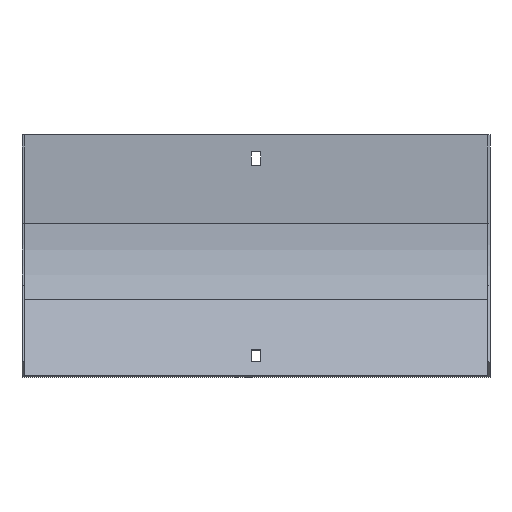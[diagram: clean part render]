
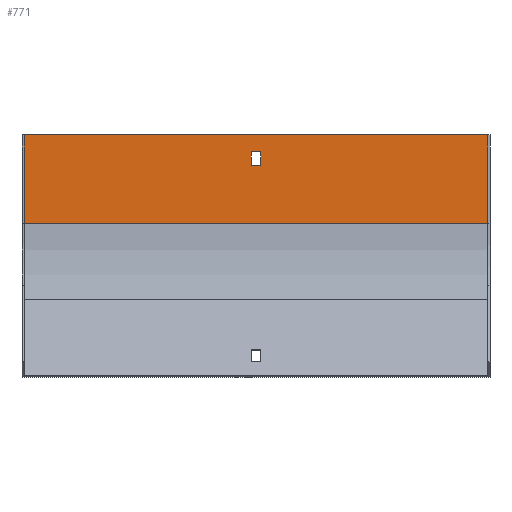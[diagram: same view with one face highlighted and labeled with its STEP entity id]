
A CAD part, front view. The second image highlights one B-rep face of the part: STEP entity #771.
In plain terms, the highlighted planar face has unit normal (0, -1, 0).
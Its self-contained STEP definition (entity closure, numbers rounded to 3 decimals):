
#20 = EDGE_LOOP ( 'NONE', ( #853, #646, #803, #283 ) ) ;
#21 = FACE_OUTER_BOUND ( 'NONE', #459, .T. ) ;
#30 = EDGE_CURVE ( 'NONE', #282, #644, #334, .T. ) ;
#36 = DIRECTION ( 'NONE',  ( 0., 0., -1. ) ) ;
#39 = ORIENTED_EDGE ( 'NONE', *, *, #250, .F. ) ;
#49 = DIRECTION ( 'NONE',  ( -1., 0., 0. ) ) ;
#79 = VECTOR ( 'NONE', #49, 1000. ) ;
#88 = DIRECTION ( 'NONE',  ( 1., 0., 0. ) ) ;
#113 = DIRECTION ( 'NONE',  ( 0., 0., 1. ) ) ;
#117 = CARTESIAN_POINT ( 'NONE',  ( 153.5, -1.5, -57.9 ) ) ;
#122 = LINE ( 'NONE', #837, #79 ) ;
#124 = VECTOR ( 'NONE', #36, 1000. ) ;
#146 = CARTESIAN_POINT ( 'NONE',  ( 152., -1.5, -57.9 ) ) ;
#166 = LINE ( 'NONE', #301, #124 ) ;
#185 = VERTEX_POINT ( 'NONE', #496 ) ;
#192 = CARTESIAN_POINT ( 'NONE',  ( 3.25, -1.5, -11. ) ) ;
#203 = DIRECTION ( 'NONE',  ( 0., 0., 1. ) ) ;
#211 = CARTESIAN_POINT ( 'NONE',  ( 153.5, -1.5, 0. ) ) ;
#214 = VERTEX_POINT ( 'NONE', #586 ) ;
#250 = EDGE_CURVE ( 'NONE', #800, #185, #640, .T. ) ;
#257 = EDGE_CURVE ( 'NONE', #644, #214, #122, .T. ) ;
#282 = VERTEX_POINT ( 'NONE', #376 ) ;
#283 = ORIENTED_EDGE ( 'NONE', *, *, #514, .F. ) ;
#284 = DIRECTION ( 'NONE',  ( 0., -1., 0. ) ) ;
#289 = DIRECTION ( 'NONE',  ( 0., 0., -1. ) ) ;
#292 = AXIS2_PLACEMENT_3D ( 'NONE', #211, #284, #289 ) ;
#301 = CARTESIAN_POINT ( 'NONE',  ( -3.25, -1.5, 0. ) ) ;
#334 = LINE ( 'NONE', #793, #768 ) ;
#344 = CARTESIAN_POINT ( 'NONE',  ( -3.25, -1.5, -20. ) ) ;
#353 = FACE_BOUND ( 'NONE', #20, .T. ) ;
#370 = CARTESIAN_POINT ( 'NONE',  ( 153.5, -1.5, 0. ) ) ;
#376 = CARTESIAN_POINT ( 'NONE',  ( 3.25, -1.5, -20. ) ) ;
#409 = VERTEX_POINT ( 'NONE', #344 ) ;
#413 = VECTOR ( 'NONE', #113, 1000. ) ;
#459 = EDGE_LOOP ( 'NONE', ( #822, #39, #630, #486 ) ) ;
#473 = LINE ( 'NONE', #370, #769 ) ;
#486 = ORIENTED_EDGE ( 'NONE', *, *, #567, .T. ) ;
#496 = CARTESIAN_POINT ( 'NONE',  ( -152., -1.5, -57.9 ) ) ;
#504 = CARTESIAN_POINT ( 'NONE',  ( -152., -1.5, 0. ) ) ;
#514 = EDGE_CURVE ( 'NONE', #409, #282, #745, .T. ) ;
#540 = EDGE_CURVE ( 'NONE', #214, #409, #166, .T. ) ;
#554 = CARTESIAN_POINT ( 'NONE',  ( 153.5, -1.5, -20. ) ) ;
#558 = LINE ( 'NONE', #692, #681 ) ;
#560 = CARTESIAN_POINT ( 'NONE',  ( 152., -1.5, 0. ) ) ;
#564 = VERTEX_POINT ( 'NONE', #560 ) ;
#567 = EDGE_CURVE ( 'NONE', #564, #725, #473, .T. ) ;
#586 = CARTESIAN_POINT ( 'NONE',  ( -3.25, -1.5, -11. ) ) ;
#600 = PLANE ( 'NONE',  #292 ) ;
#628 = DIRECTION ( 'NONE',  ( -1., 0., 0. ) ) ;
#630 = ORIENTED_EDGE ( 'NONE', *, *, #813, .T. ) ;
#636 = LINE ( 'NONE', #685, #413 ) ;
#640 = LINE ( 'NONE', #117, #750 ) ;
#644 = VERTEX_POINT ( 'NONE', #192 ) ;
#646 = ORIENTED_EDGE ( 'NONE', *, *, #257, .F. ) ;
#681 = VECTOR ( 'NONE', #823, 1000. ) ;
#685 = CARTESIAN_POINT ( 'NONE',  ( 152., -1.5, -57.9 ) ) ;
#692 = CARTESIAN_POINT ( 'NONE',  ( -152., -1.5, -57.9 ) ) ;
#725 = VERTEX_POINT ( 'NONE', #504 ) ;
#736 = VECTOR ( 'NONE', #88, 1000. ) ;
#745 = LINE ( 'NONE', #554, #736 ) ;
#750 = VECTOR ( 'NONE', #845, 1000. ) ;
#768 = VECTOR ( 'NONE', #203, 1000. ) ;
#769 = VECTOR ( 'NONE', #628, 1000. ) ;
#771 = ADVANCED_FACE ( 'NONE', ( #353, #21 ), #600, .T. ) ;
#793 = CARTESIAN_POINT ( 'NONE',  ( 3.25, -1.5, 0. ) ) ;
#800 = VERTEX_POINT ( 'NONE', #146 ) ;
#803 = ORIENTED_EDGE ( 'NONE', *, *, #30, .F. ) ;
#813 = EDGE_CURVE ( 'NONE', #800, #564, #636, .T. ) ;
#822 = ORIENTED_EDGE ( 'NONE', *, *, #862, .F. ) ;
#823 = DIRECTION ( 'NONE',  ( 0., 0., 1. ) ) ;
#837 = CARTESIAN_POINT ( 'NONE',  ( 153.5, -1.5, -11. ) ) ;
#845 = DIRECTION ( 'NONE',  ( -1., 0., 0. ) ) ;
#853 = ORIENTED_EDGE ( 'NONE', *, *, #540, .F. ) ;
#862 = EDGE_CURVE ( 'NONE', #185, #725, #558, .T. ) ;
